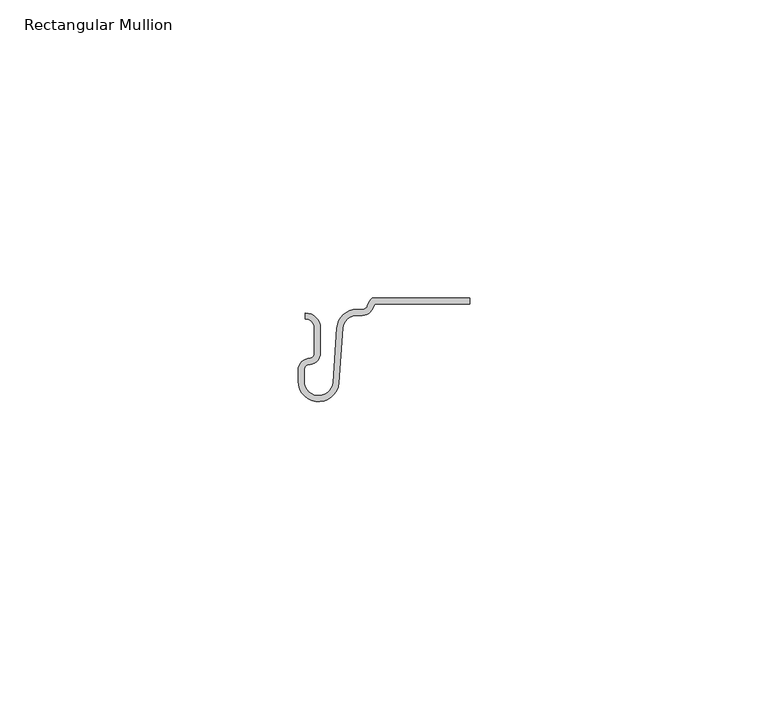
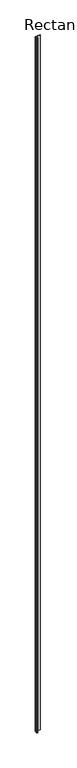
"""IFC4 building model written with IfcOpenShell, lengths in millimetres: member geometry, Rectangular Mullion : Stratco_Hiland_Tray Nailstrip_25mm Rib_Underlap Tray."""

import ifcopenshell
import ifcopenshell.guid

model = None  # the IFC model being written
_history = None  # IfcOwnerHistory: only IFC2X3 demands one
_inside = {}  # id of a spatial element -> (the spatial element, [elements in it])
_under = {}  # id of a project, library or spatial element -> (it, [spatial elements below it])
_declared = {}  # id of a project -> (the project, [libraries it declares])
_typed = {}  # id of a type object -> (the type object, [elements of that type])
_made_of = {}  # id of a material, layer set ... -> (it, [elements and type objects made of it])


def new_model(schema):
    """Start an empty IFC model of exactly this schema.

    Asked for "IFC4X3", IfcOpenShell would pick the latest addendum, in which some entities
    have other attributes; the version numbers below select the first issue.
    IFC2X3 requires an IfcOwnerHistory on every rooted entity: one is made here for all.
    """
    global model, _history
    if schema == "IFC4X3":
        model = ifcopenshell.file(schema_version=(4, 3, 0, 0))
    else:
        model = ifcopenshell.file(schema=schema)
    _inside.clear()
    _under.clear()
    _declared.clear()
    _typed.clear()
    _made_of.clear()
    _history = None
    if model.schema == "IFC2X3":
        org = make("IfcOrganization", Name="unknown")
        user = make(
            "IfcPersonAndOrganization",
            ThePerson=make("IfcPerson", FamilyName="unknown"),
            TheOrganization=org,
        )
        app = make(
            "IfcApplication",
            ApplicationDeveloper=org,
            Version="unknown",
            ApplicationFullName="unknown",
            ApplicationIdentifier="unknown",
        )
        _history = make(
            "IfcOwnerHistory",
            OwningUser=user,
            OwningApplication=app,
            ChangeAction="ADDED",
            CreationDate=0,
        )
    return model


def make(cls, **values):
    """One entity of the class cls with the attributes given. An attribute that is None is left unset."""
    return model.create_entity(
        cls, **{name: value for name, value in values.items() if value is not None}
    )


def rooted(cls, **values):
    """An entity with a GlobalId (a new one), such as an element, a storey or a relation."""
    return make(cls, GlobalId=ifcopenshell.guid.new(), OwnerHistory=_history, **values)


def si_unit(unit_type, name, prefix=None):
    """IfcSIUnit, for example si_unit("LENGTHUNIT", "METRE", prefix="MILLI")."""
    return make("IfcSIUnit", UnitType=unit_type, Prefix=prefix, Name=name)


def assignment(units):
    """IfcUnitAssignment: the units of a project."""
    return None if units is None else make("IfcUnitAssignment", Units=units)


def point(xyz):
    """IfcCartesianPoint."""
    return None if xyz is None else make("IfcCartesianPoint", Coordinates=xyz)


def direction(xyz):
    """IfcDirection."""
    return None if xyz is None else make("IfcDirection", DirectionRatios=xyz)


def frame(location, z_axis=None, x_axis=None):
    """IfcAxis2Placement3D, a coordinate frame: its origin and axes. An axis left out is left unset."""
    return make(
        "IfcAxis2Placement3D",
        Location=point(location),
        Axis=direction(z_axis),
        RefDirection=direction(x_axis),
    )


def frame_2d(location, x_axis=None):
    """IfcAxis2Placement2D, a coordinate frame in the plane: its origin and x axis."""
    return make(
        "IfcAxis2Placement2D", Location=point(location), RefDirection=direction(x_axis)
    )


def origin():
    """The frame at (0, 0, 0) with its axes left unset."""
    return frame((0.0, 0.0, 0.0))


def place(relative_to, where):
    """IfcLocalPlacement: puts the frame where relative to a parent placement (None: the world)."""
    return make(
        "IfcLocalPlacement", PlacementRelTo=relative_to, RelativePlacement=where
    )


def context(
    kind, dimensions, precision=None, world=None, true_north=None, identifier=None
):
    """IfcGeometricRepresentationContext, for example the 3D "Model" context."""
    return make(
        "IfcGeometricRepresentationContext",
        ContextIdentifier=identifier,
        ContextType=kind,
        CoordinateSpaceDimension=dimensions,
        Precision=precision,
        WorldCoordinateSystem=world,
        TrueNorth=true_north,
    )


def project(units=None, contexts=None):
    """IfcProject with its units and contexts."""
    return rooted(
        "IfcProject",
        Name="project",
        RepresentationContexts=contexts,
        UnitsInContext=assignment(units),
    )


def spatial(cls, under=None, at=None, **own):
    """A site, building, storey or space (cls), placed at a placement, below another one or the project."""
    s = rooted(cls, ObjectPlacement=at, **own)
    if under is not None:
        _under.setdefault(under.id(), (under, []))[1].append(s)
    return s


def polyline(points):
    """IfcPolyline through the points."""
    return make("IfcPolyline", Points=[point(p) for p in points])


def circle_curve(where, radius):
    """IfcCircle in the frame where."""
    return make("IfcCircle", Position=where, Radius=radius)


def trimmed(basis, trim1, trim2, sense, master):
    """IfcTrimmedCurve: the piece of a basis curve between two trims."""
    return make(
        "IfcTrimmedCurve",
        BasisCurve=basis,
        Trim1=trim1,
        Trim2=trim2,
        SenseAgreement=sense,
        MasterRepresentation=master,
    )


def segment(curve, same_sense, transition):
    """IfcCompositeCurveSegment."""
    return make(
        "IfcCompositeCurveSegment",
        Transition=transition,
        SameSense=same_sense,
        ParentCurve=curve,
    )


def composite_curve(segments, self_intersect=None):
    """IfcCompositeCurve: segments joined end to end."""
    return make("IfcCompositeCurve", Segments=segments, SelfIntersect=self_intersect)


def outline(outer, holes=None, kind="AREA"):
    """IfcArbitraryClosedProfileDef: a profile drawn as a closed curve; with holes, ...WithVoids."""
    if holes is None:
        return make("IfcArbitraryClosedProfileDef", ProfileType=kind, OuterCurve=outer)
    return make(
        "IfcArbitraryProfileDefWithVoids",
        ProfileType=kind,
        OuterCurve=outer,
        InnerCurves=holes,
    )


def extrude(swept, where, along, depth):
    """IfcExtrudedAreaSolid: the profile swept, set in the frame where, extruded along a direction by depth."""
    return make(
        "IfcExtrudedAreaSolid",
        SweptArea=swept,
        Position=where,
        ExtrudedDirection=direction(along),
        Depth=depth,
    )


def shape(context_of_items, identifier, shape_type, items):
    """IfcShapeRepresentation: the items that make up one representation, for example the "Body"."""
    return make(
        "IfcShapeRepresentation",
        ContextOfItems=context_of_items,
        RepresentationIdentifier=identifier,
        RepresentationType=shape_type,
        Items=items,
    )


def source(mapping_origin, context_of_items, identifier, shape_type, items):
    """IfcRepresentationMap: a shape defined once, which mapped items show again and again."""
    return make(
        "IfcRepresentationMap",
        MappingOrigin=mapping_origin,
        MappedRepresentation=shape(context_of_items, identifier, shape_type, items),
    )


def transform(
    local_origin,
    x_axis=None,
    y_axis=None,
    z_axis=None,
    scale=None,
    scale2=None,
    scale3=None,
    uniform=True,
):
    """IfcCartesianTransformationOperator3D, or its non-uniform kind. x_axis, y_axis, z_axis: its Axis1, 2, 3."""
    if uniform:
        return make(
            "IfcCartesianTransformationOperator3D",
            Axis1=direction(x_axis),
            Axis2=direction(y_axis),
            LocalOrigin=point(local_origin),
            Scale=scale,
            Axis3=direction(z_axis),
        )
    return make(
        "IfcCartesianTransformationOperator3DnonUniform",
        Axis1=direction(x_axis),
        Axis2=direction(y_axis),
        LocalOrigin=point(local_origin),
        Scale=scale,
        Axis3=direction(z_axis),
        Scale2=scale2,
        Scale3=scale3,
    )


def mapped(mapping_source, mapping_target):
    """IfcMappedItem: shows the shape of a source again, moved by a transform."""
    return make(
        "IfcMappedItem", MappingSource=mapping_source, MappingTarget=mapping_target
    )


def made_of(thing, what):
    """Note that an element or type object is made of a material, layer set ...; save() writes the relation."""
    if what is not None:
        _made_of.setdefault(what.id(), (what, []))[1].append(thing)
    return thing


def element(
    cls,
    number,
    at=None,
    inside=None,
    cuts=None,
    type_object=None,
    material=None,
    context=None,
    identifier="Body",
    shape_type=None,
    held_by="IfcProductDefinitionShape",
    body=None,
    shapes=None,
    **own,
):
    """One element of the class cls, such as IfcWall. Its Tag is "e" and its number.

    at: its placement. inside: the storey or other place that contains it. cuts: it is an
    opening in that element (IfcRelVoidsElement). A single representation is given by context,
    identifier, shape_type and body (its items); several are given by shapes. held_by: the class
    of the entity that holds the representations. save() writes the other relations.
    """
    e = rooted(cls, Tag="e%d" % number, ObjectPlacement=at, **own)
    if body is not None:
        shapes = [shape(context, identifier, shape_type, body)]
    if shapes is not None:
        e.Representation = make(held_by, Representations=shapes)
    if inside is not None:
        _inside.setdefault(inside.id(), (inside, []))[1].append(e)
    if cuts is not None:
        rooted(
            "IfcRelVoidsElement", RelatingBuildingElement=cuts, RelatedOpeningElement=e
        )
    if type_object is not None:
        _typed.setdefault(type_object.id(), (type_object, []))[1].append(e)
    return made_of(e, material)


def aggregate(whole, parts):
    """IfcRelAggregates: a whole, such as a stair, and the parts it consists of."""
    return rooted("IfcRelAggregates", RelatingObject=whole, RelatedObjects=parts)


def save(model, path):
    """Write the relations noted so far, then the file.

    IfcRelAggregates (storeys below a building ...), IfcRelContainedInSpatialStructure (elements
    in a storey), IfcRelDefinesByType, IfcRelAssociatesMaterial and IfcRelDeclares: one each for
    every whole, place, type object, material and project.
    """
    for whole, parts in _under.values():
        aggregate(whole, parts)
    for where, things in _inside.values():
        rooted(
            "IfcRelContainedInSpatialStructure",
            RelatedElements=things,
            RelatingStructure=where,
        )
    for kind, things in _typed.values():
        rooted("IfcRelDefinesByType", RelatedObjects=things, RelatingType=kind)
    for what, things in _made_of.values():
        rooted("IfcRelAssociatesMaterial", RelatedObjects=things, RelatingMaterial=what)
    for by, libraries in _declared.values():
        rooted("IfcRelDeclares", RelatingContext=by, RelatedDefinitions=libraries)
    model.write(path)


def rectangular_mullion_1fceed1b(model_context):
    return source(origin(), model_context, "Body", "SweptSolid", [
        extrude(outline(composite_curve([segment(polyline([(-26.0680397, -9.2832209), (-26.0680397, -4.9971229)]), True, "CONTINUOUS"), segment(trimmed(circle_curve(frame_2d((-27.5651563, -4.9971229)), 1.4971167), [point((-26.0680397, -4.9971229))], [point((-27.5651563, -3.5000063))], True, "CARTESIAN"), True, "CONTINUOUS"), segment(polyline([(-27.5651563, -3.5000063), (-27.5651563, -2.5000038)]), True, "CONTINUOUS"), segment(trimmed(circle_curve(frame_2d((-27.5651563, -4.9973044)), 2.4973006), [point((-27.5651563, -2.5000038))], [point((-25.0678557, -4.9973044))], False, "CARTESIAN"), True, "CONTINUOUS"), segment(polyline([(-25.0678557, -4.9973044), (-25.0678557, -9.2101777)]), True, "CONTINUOUS"), segment(trimmed(circle_curve(frame_2d((-27.0053014, -9.2101777)), 1.9374457), [point((-25.0678557, -9.2101777))], [point((-26.7669918, -11.1329112))], False, "CARTESIAN"), True, "CONTINUOUS"), segment(trimmed(circle_curve(frame_2d((-26.8709148, -12.0272941)), 0.9004003), [point((-26.7669918, -11.1329112))], [point((-27.7713151, -12.0272941))], True, "CARTESIAN"), True, "CONTINUOUS"), segment(polyline([(-27.7713151, -12.0272941), (-27.7713151, -13.9449093)]), True, "CONTINUOUS"), segment(trimmed(circle_curve(frame_2d((-25.3466809, -13.9449093)), 2.4246342), [point((-27.7713151, -13.9449093))], [point((-22.9283476, -14.1195953))], True, "CARTESIAN"), True, "CONTINUOUS"), segment(polyline([(-22.9283476, -14.1195953), (-22.2679808, -4.9775568)]), True, "CONTINUOUS"), segment(trimmed(circle_curve(frame_2d((-18.9441203, -5.2176529)), 3.3325208), [point((-22.2679808, -4.9775568))], [point((-18.9441203, -1.885132))], False, "CARTESIAN"), True, "CONTINUOUS"), segment(polyline([(-18.9441203, -1.885132), (-17.9948164, -1.8851321)]), True, "CONTINUOUS"), segment(trimmed(circle_curve(frame_2d((-17.9948164, -1.0391835)), 0.8459487), [point((-17.9948164, -1.8851321))], [point((-17.1773514, -1.2568535))], True, "CARTESIAN"), True, "CONTINUOUS"), segment(trimmed(circle_curve(frame_2d((-14.8544641, -1.875379)), 2.403826), [point((-17.1773514, -1.2568535))], [point((-16.322056, 0.0284469))], False, "CARTESIAN"), True, "CONTINUOUS"), segment(polyline([(-16.322056, 0.0284469), (0.0, 0.0284469), (0.0, -0.9715531), (-15.9286271, -0.9715531), (-16.2705207, -1.6982214)]), True, "CONTINUOUS"), segment(trimmed(circle_curve(frame_2d((-17.9948164, -1.0391835)), 1.8459487), [point((-16.2705207, -1.6982214))], [point((-17.9948164, -2.8851322))], False, "CARTESIAN"), True, "CONTINUOUS"), segment(polyline([(-17.9948164, -2.8851322), (-18.9441203, -2.8851321)]), True, "CONTINUOUS"), segment(trimmed(circle_curve(frame_2d((-18.9441203, -5.2176529)), 2.3325208), [point((-18.9441203, -2.8851321))], [point((-21.2705796, -5.0496031))], True, "CARTESIAN"), True, "CONTINUOUS"), segment(polyline([(-21.2705796, -5.0496031), (-21.9309456, -14.1916287)]), True, "CONTINUOUS"), segment(trimmed(circle_curve(frame_2d((-25.3464536, -13.9449125)), 3.424407), [point((-21.9309456, -14.1916287))], [point((-28.7708606, -13.9449125))], False, "CARTESIAN"), True, "CONTINUOUS"), segment(polyline([(-28.7708606, -13.9449125), (-28.7708606, -12.0277688)]), True, "CONTINUOUS"), segment(trimmed(circle_curve(frame_2d((-26.8708606, -12.0277688)), 1.9), [point((-28.7708606, -12.0277688))], [point((-26.8123913, -10.1286687))], False, "CARTESIAN"), True, "CONTINUOUS"), segment(trimmed(circle_curve(frame_2d((-27.0038557, -9.209703)), 0.9386994), [point((-26.8123913, -10.1286687))], [point((-26.0680397, -9.2832209))], True, "CARTESIAN"), True, "CONTINUOUS")], self_intersect=False)), frame((0.0, 0.0, -4000.0), z_axis=(0.0, 0.0, 1.0), x_axis=(1.0, 0.0, 0.0)), (0.0, 0.0, 1.0), 4000.0),
    ])


if __name__ == "__main__":
    model = new_model("IFC4")
    model_context = context("Model", 3, world=origin())
    ifc_project = project(units=[si_unit("LENGTHUNIT", "METRE", prefix="MILLI")], contexts=[model_context])
    site = spatial("IfcSite", under=ifc_project)
    building = spatial("IfcBuilding", under=site)
    placement = place(None, origin())
    rectangular_mullion_shape = rectangular_mullion_1fceed1b(model_context)
    element("IfcMember", 1, ObjectType="Rectangular Mullion : Stratco_Hiland_Tray Nailstrip_25mm Rib_Underlap Tray", at=placement, inside=building, context=model_context, shape_type="MappedRepresentation", body=[
        mapped(rectangular_mullion_shape, transform((0.0, 0.0, 0.0), x_axis=(1.0, 0.0, 0.0), y_axis=(0.0, 1.0, 0.0), z_axis=(0.0, 0.0, 1.0))),
    ])
    save(model, "model.ifc")
